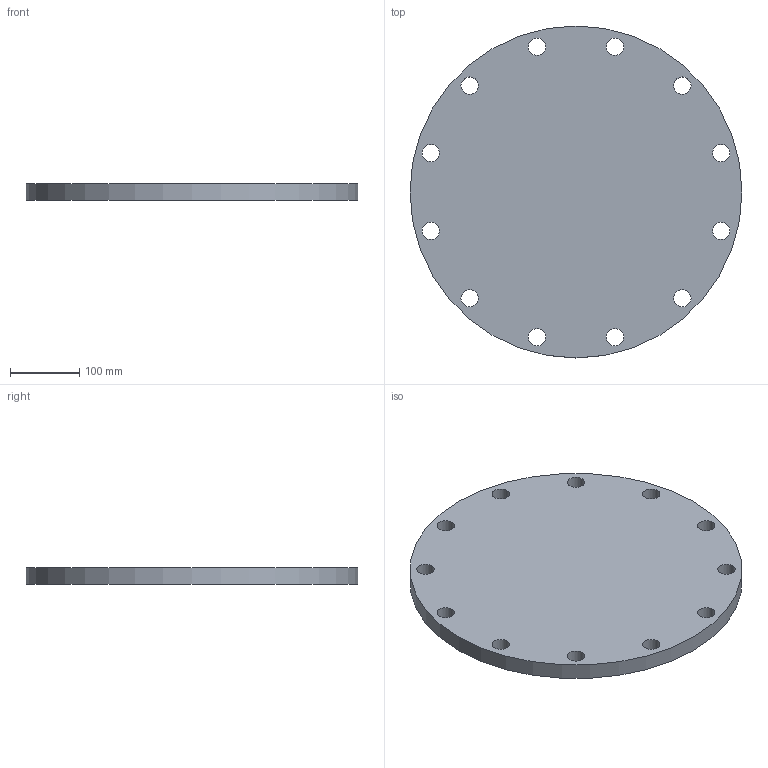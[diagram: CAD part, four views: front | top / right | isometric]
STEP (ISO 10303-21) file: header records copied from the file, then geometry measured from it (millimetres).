
FILE_DESCRIPTION(/* description */ (''),/* implementation_level */ '2;1');
FILE_NAME(/* name */ 'C:\Users\D\Documents\Inventor\HP\JIS\フランジ\JIS 5k bl ff\jis5k-bl-ff-350.stp',/* time_stamp */ '2024-09-12T16:49:24+09:00',/* author */ ('D'),/* organization */ (''),/* preprocessor_version */ 'ST-DEVELOPER v18',/* originating_system */ 'Autodesk Inventor 2020',/* authorisation */ '');
FILE_SCHEMA (('AUTOMOTIVE_DESIGN { 1 0 10303 214 3 1 1 }'));
Length unit declared in the file: millimetre
Products named in the file (1): jis5k-sop-rf-10
Bounding box: 480 x 480 x 24 mm (x, y, z)
Volume: 4201566 mm3; surface area: 408941.1 mm2
Topology: 1 solids, 1 shells, 15 faces, 53 edges, 40 vertices
Faces by surface type: cylinder 13, plane 2
Full cylindrical faces by diameter (mm): 25 x12, 480 x1
Entity records: 708 total; most frequent: DIRECTION 125, CARTESIAN_POINT 109, ORIENTED_EDGE 106, AXIS2_PLACEMENT_3D 56, EDGE_CURVE 53, CIRCLE 40, VERTEX_POINT 40, EDGE_LOOP 39
